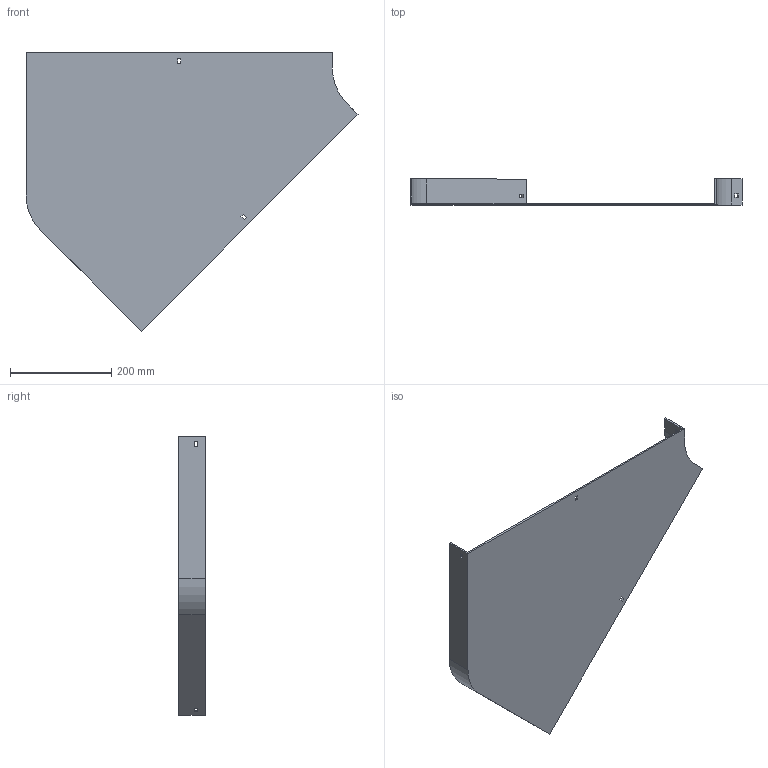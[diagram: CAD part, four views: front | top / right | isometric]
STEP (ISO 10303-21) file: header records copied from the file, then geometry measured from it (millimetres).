
FILE_DESCRIPTION (( 'STEP AP214' ), '1' );
FILE_NAME ('11F1B600.step', '2025-02-21T12:55:49', ( '' ), ( '' ), 'SwSTEP 2.0', 'SolidWorks 2023', '' );
FILE_SCHEMA (( 'AUTOMOTIVE_DESIGN' ));
Length unit declared in the file: millimetre
Products named in the file (1): 11F1B600
Bounding box: 654.5 x 52 x 549.02 mm (x, y, z)
Volume: 961443.1 mm3; surface area: 557717.2 mm2
Topology: 1 solids, 1 shells, 42 faces, 120 edges, 80 vertices
Faces by surface type: plane 38, cylinder 4
Entity records: 1399 total; most frequent: CARTESIAN_POINT 243, ORIENTED_EDGE 240, DIRECTION 214, EDGE_CURVE 120, LINE 112, VECTOR 112, VERTEX_POINT 80, EDGE_LOOP 54
